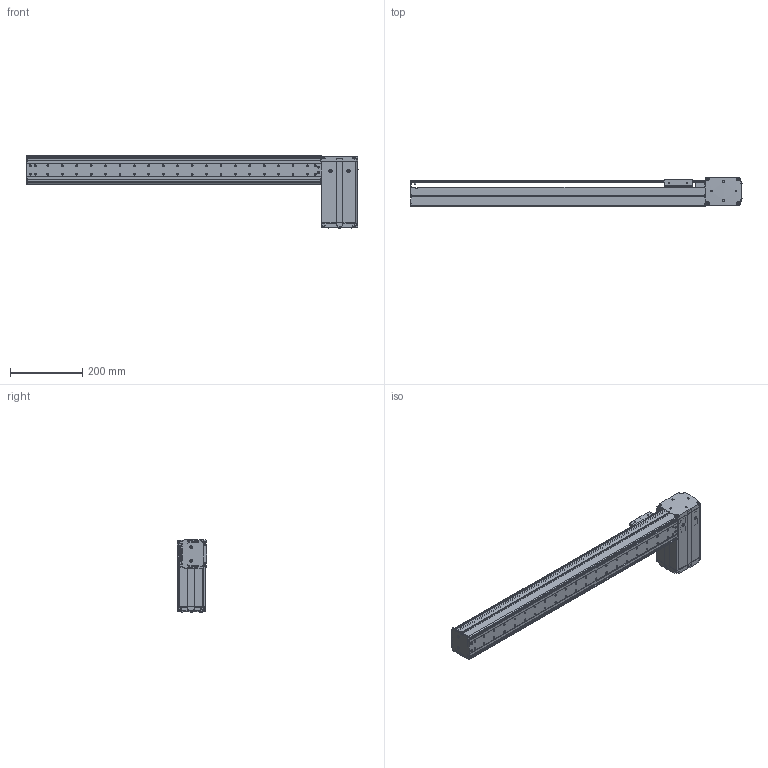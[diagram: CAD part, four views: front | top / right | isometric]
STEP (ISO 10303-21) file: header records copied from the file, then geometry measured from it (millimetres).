
FILE_DESCRIPTION((''),'2;1');
FILE_NAME('BE10_-BL-S_N-65_IGS_PRT','2017-06-18T',(' '),(''),'PRO/ENGINEER BY PARAMETRIC TECHNOLOGY CORPORATION, 2015030','PRO/ENGINEER BY PARAMETRIC TECHNOLOGY CORPORATION, 2015030','');
FILE_SCHEMA(('CONFIG_CONTROL_DESIGN'));
Products named in the file (1): BE10_-BL-S_N-65_IGS_PRT
Bounding box: 920.8 x 82.5 x 200.22 mm (x, y, z)
Volume: 1181467.7 mm3; surface area: 847677.3 mm2
Topology: 3 solids, 124 shells, 2008 faces, 5483 edges, 3601 vertices
Faces by surface type: plane 983, cylinder 862, cone 103, sphere 30, torus 27, bspline 3
Entity records: 65227 total; most frequent: CARTESIAN_POINT 13278, DIRECTION 11016, ORIENTED_EDGE 10442, EDGE_CURVE 5429, AXIS2_PLACEMENT_3D 3917, VERTEX_POINT 3601, VECTOR 3182, LINE 3182
